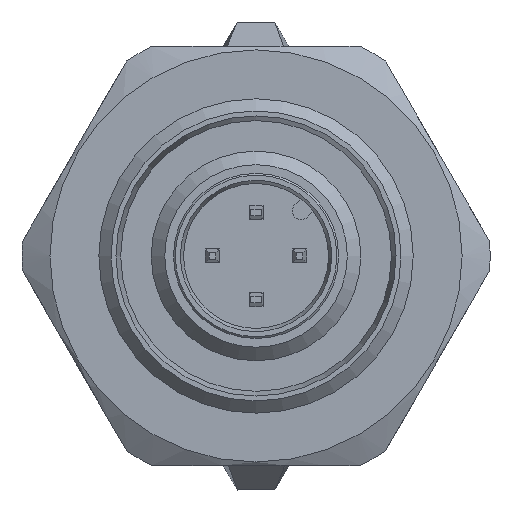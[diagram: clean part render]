
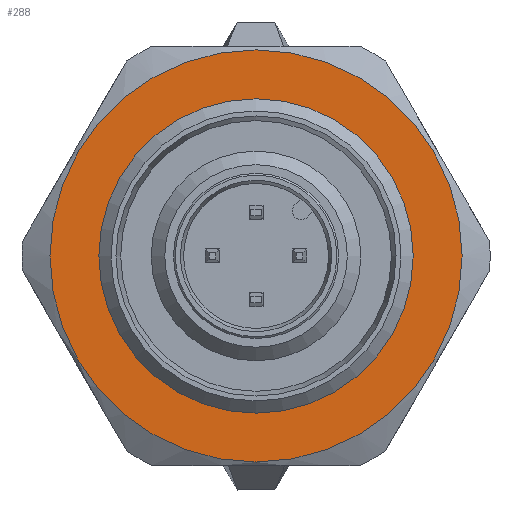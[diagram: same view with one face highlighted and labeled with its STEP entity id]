
A CAD part, left-side view. The second image highlights one B-rep face of the part: STEP entity #288.
In plain terms, the highlighted planar face has unit normal (-1, 0, 0) as drawn and (0, 1, 0) by its records, which use the part's own axes.
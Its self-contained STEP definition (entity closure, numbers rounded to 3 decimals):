
#288 = ADVANCED_FACE( '', ( #538, #539 ), #540, .T. );
#538 = FACE_BOUND( '', #797, .T. );
#539 = FACE_OUTER_BOUND( '', #798, .T. );
#540 = PLANE( '', #799 );
#797 = EDGE_LOOP( '', ( #1663 ) );
#798 = EDGE_LOOP( '', ( #1664 ) );
#799 = AXIS2_PLACEMENT_3D( '', #1665, #1666, #1667 );
#1663 = ORIENTED_EDGE( '', *, *, #1951, .T. );
#1664 = ORIENTED_EDGE( '', *, *, #1925, .F. );
#1665 = CARTESIAN_POINT( '', ( 0., 2., 0. ) );
#1666 = DIRECTION( '', ( 0., 1., 0. ) );
#1667 = DIRECTION( '', ( 0., 0., 1. ) );
#1925 = EDGE_CURVE( '', #2360, #2360, #2361, .T. );
#1951 = EDGE_CURVE( '', #2400, #2400, #2401, .F. );
#2360 = VERTEX_POINT( '', #3001 );
#2361 = CIRCLE( '', #3002, 11.8 );
#2400 = VERTEX_POINT( '', #3157 );
#2401 = CIRCLE( '', #3158, 8.959 );
#3001 = CARTESIAN_POINT( '', ( 0., 2., -11.8 ) );
#3002 = AXIS2_PLACEMENT_3D( '', #3538, #3539, #3540 );
#3157 = CARTESIAN_POINT( '', ( 0., 2., 8.959 ) );
#3158 = AXIS2_PLACEMENT_3D( '', #3574, #3575, #3576 );
#3538 = CARTESIAN_POINT( '', ( 0., 2., 0. ) );
#3539 = DIRECTION( '', ( 0., -1., 0. ) );
#3540 = DIRECTION( '', ( 0., 0., -1. ) );
#3574 = CARTESIAN_POINT( '', ( 0., 2., 0. ) );
#3575 = DIRECTION( '', ( 0., 1., 0. ) );
#3576 = DIRECTION( '', ( 0., 0., 1. ) );
